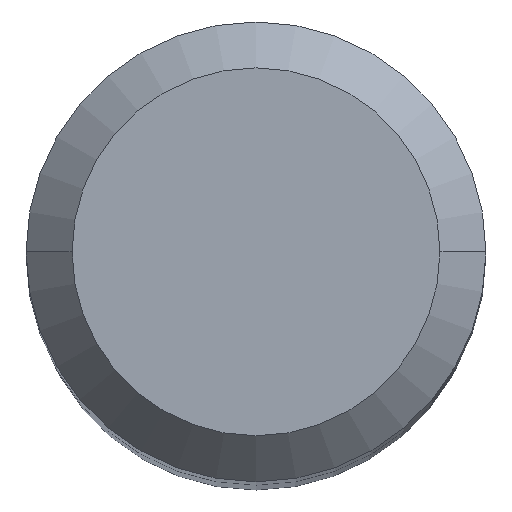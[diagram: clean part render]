
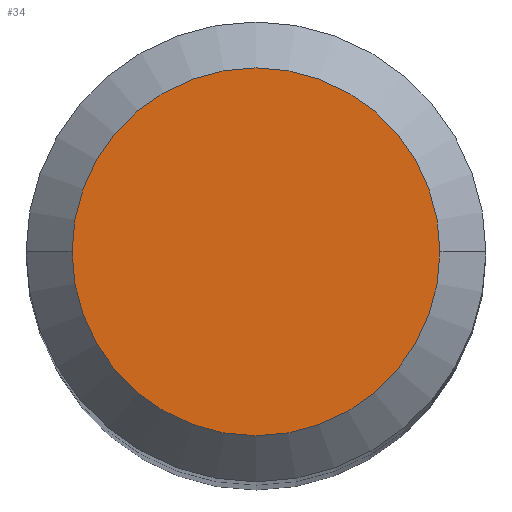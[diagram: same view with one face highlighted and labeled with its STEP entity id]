
A CAD part, top view. The second image highlights one B-rep face of the part: STEP entity #34.
In plain terms, the highlighted planar face has unit normal (0, 0, 1).
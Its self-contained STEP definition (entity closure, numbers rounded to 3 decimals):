
#17 = DIRECTION ( 'NONE',  ( 0., 0., 1. ) ) ;
#34 = ADVANCED_FACE ( 'NONE', ( #99 ), #442, .T. ) ;
#35 = DIRECTION ( 'NONE',  ( -1., 0., 0. ) ) ;
#62 = CARTESIAN_POINT ( 'NONE',  ( 0., 0., 0. ) ) ;
#99 = FACE_OUTER_BOUND ( 'NONE', #287, .T. ) ;
#101 = DIRECTION ( 'NONE',  ( 1., 0., 0. ) ) ;
#104 = CIRCLE ( 'NONE', #386, 4. ) ;
#110 = DIRECTION ( 'NONE',  ( -1., 0., 0. ) ) ;
#145 = VERTEX_POINT ( 'NONE', #328 ) ;
#170 = CARTESIAN_POINT ( 'NONE',  ( 0., 4., 0. ) ) ;
#174 = EDGE_CURVE ( 'NONE', #281, #145, #272, .T. ) ;
#205 = EDGE_CURVE ( 'NONE', #145, #281, #104, .T. ) ;
#260 = CARTESIAN_POINT ( 'NONE',  ( 0., 0., 0. ) ) ;
#272 = CIRCLE ( 'NONE', #426, 4. ) ;
#281 = VERTEX_POINT ( 'NONE', #294 ) ;
#287 = EDGE_LOOP ( 'NONE', ( #288, #472 ) ) ;
#288 = ORIENTED_EDGE ( 'NONE', *, *, #174, .F. ) ;
#294 = CARTESIAN_POINT ( 'NONE',  ( -4., 0., 0. ) ) ;
#328 = CARTESIAN_POINT ( 'NONE',  ( 4., 0., 0. ) ) ;
#373 = DIRECTION ( 'NONE',  ( 0., 0., -1. ) ) ;
#381 = AXIS2_PLACEMENT_3D ( 'NONE', #170, #17, #101 ) ;
#382 = DIRECTION ( 'NONE',  ( 0., 0., -1. ) ) ;
#386 = AXIS2_PLACEMENT_3D ( 'NONE', #260, #373, #35 ) ;
#426 = AXIS2_PLACEMENT_3D ( 'NONE', #62, #382, #110 ) ;
#442 = PLANE ( 'NONE',  #381 ) ;
#472 = ORIENTED_EDGE ( 'NONE', *, *, #205, .F. ) ;
